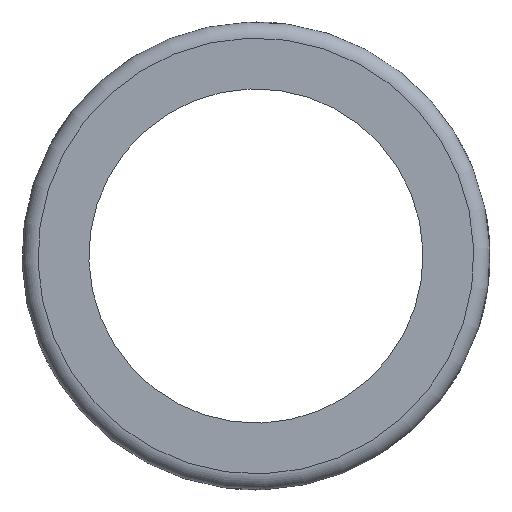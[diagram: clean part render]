
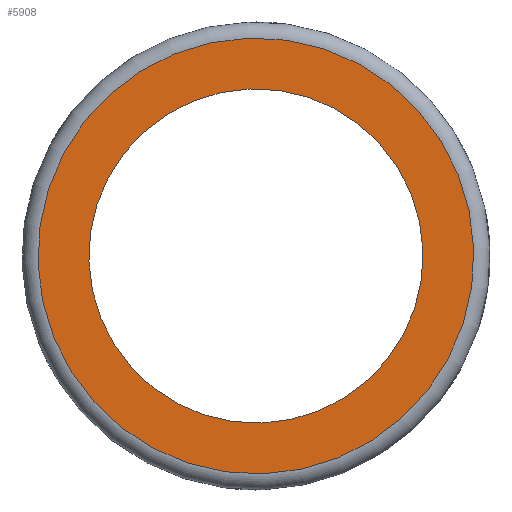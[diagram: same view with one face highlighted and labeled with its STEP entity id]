
A CAD part, left-side view. The second image highlights one B-rep face of the part: STEP entity #5908.
In plain terms, the highlighted planar face has unit normal (-1, 0, 0).
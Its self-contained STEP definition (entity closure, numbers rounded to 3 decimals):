
#123=PLANE('',#6354);
#1393=CIRCLE('',#6351,12.5);
#1395=CIRCLE('',#6355,16.3);
#1786=ORIENTED_EDGE('',*,*,#3575,.T.);
#1787=ORIENTED_EDGE('',*,*,#3561,.T.);
#3561=EDGE_CURVE('',#4456,#4456,#1393,.T.);
#3575=EDGE_CURVE('',#4470,#4470,#1395,.F.);
#4456=VERTEX_POINT('',#9236);
#4470=VERTEX_POINT('',#9290);
#5049=EDGE_LOOP('',(#1786));
#5050=EDGE_LOOP('',(#1787));
#5473=FACE_BOUND('',#5049,.T.);
#5474=FACE_BOUND('',#5050,.T.);
#5908=ADVANCED_FACE('',(#5473,#5474),#123,.F.);
#6351=AXIS2_PLACEMENT_3D('',#9235,#6960,#6961);
#6354=AXIS2_PLACEMENT_3D('',#9288,#6972,#6973);
#6355=AXIS2_PLACEMENT_3D('',#9289,#6974,#6975);
#6960=DIRECTION('',(1.,0.,0.));
#6961=DIRECTION('',(0.,0.139,-0.99));
#6972=DIRECTION('',(1.,0.,0.));
#6973=DIRECTION('',(0.,0.139,-0.99));
#6974=DIRECTION('',(1.,0.,0.));
#6975=DIRECTION('',(0.,0.139,-0.99));
#9235=CARTESIAN_POINT('',(-20.,0.,0.));
#9236=CARTESIAN_POINT('',(-20.,1.74,-12.378));
#9288=CARTESIAN_POINT('',(-20.,0.,0.));
#9289=CARTESIAN_POINT('',(-20.,0.,0.));
#9290=CARTESIAN_POINT('',(-20.,2.269,-16.141));
